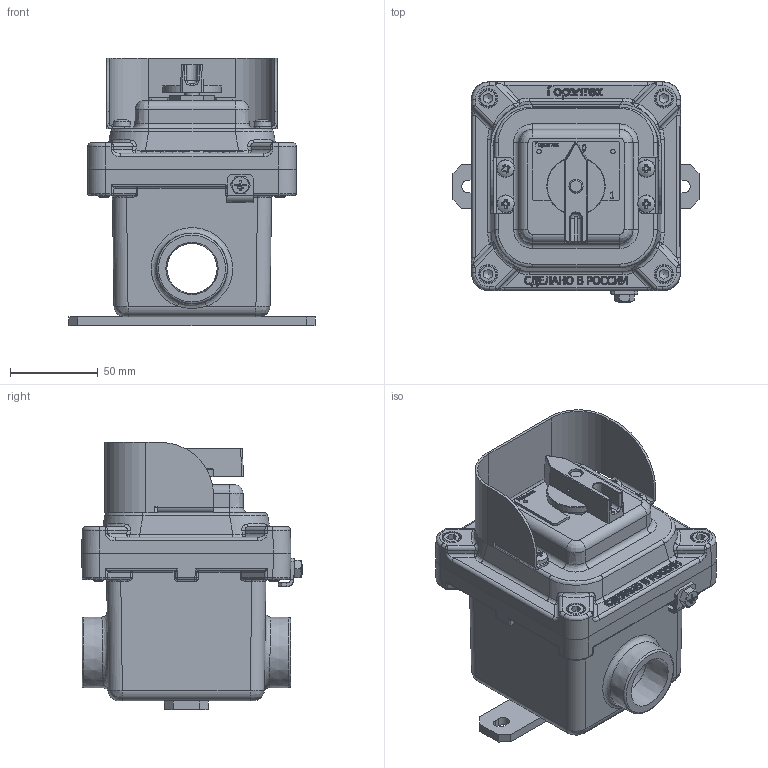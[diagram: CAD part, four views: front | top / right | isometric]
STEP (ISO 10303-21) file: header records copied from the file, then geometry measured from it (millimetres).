
FILE_DESCRIPTION((''),'2;1');
FILE_NAME('\\file-server\cortem_klient\INVENTOR БАЗА МОДЕЛЕЙ\Актуальная база моделей для отдела продаж\ППГ\ППГ-25.stp','2019-04-10T16:30:50',('V.E.Dolguev'),(''),'Autodesk Inventor 2012','Autodesk Inventor 2012','');
FILE_SCHEMA(('AUTOMOTIVE_DESIGN { 1 0 10303 214 1 1 1 1 }'));
Length unit declared in the file: millimetre
Products named in the file (1): ППГ-25
Bounding box: 140 x 125.43 x 152 mm (x, y, z)
Surface area: 200805.1 mm2 (no closed solid volume)
Topology: 0 solids, 33 shells, 3508 faces, 8432 edges, 5088 vertices
Faces by surface type: plane 1239, cylinder 1033, bspline 821, sphere 191, cone 166, torus 52, revolution 6
Full cylindrical faces by diameter (mm): 2 x1, 2.5 x6, 2.6 x4, 3 x8, 4 x2, 4.134 x11, 4.509 x2, 4.6 x4, 4.917 x8, 5 x9, 5.5 x2, 6 x7, 6.5 x2, 6.9 x1, 7.9 x2, 8 x4, 9.3 x2, 10 x4, 11 x4, 11.2 x1, 12 x1, 13 x1, 16 x1, 18.1 x1, 18.631 x1, 19.794 x1, 20.955 x1, 28.575 x2, 40 x1, 40.2 x1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
Entity records: 167504 total; most frequent: CARTESIAN_POINT 88611, ORIENTED_EDGE 16314, DIRECTION 14359, EDGE_CURVE 8157, AXIS2_PLACEMENT_3D 5153, VERTEX_POINT 5038, VECTOR 4047, LINE 4047
